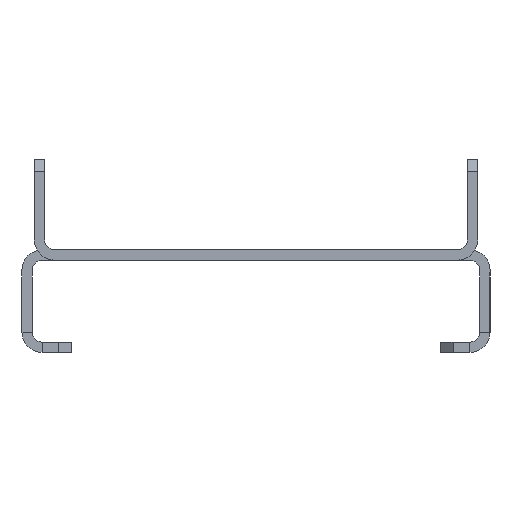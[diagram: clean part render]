
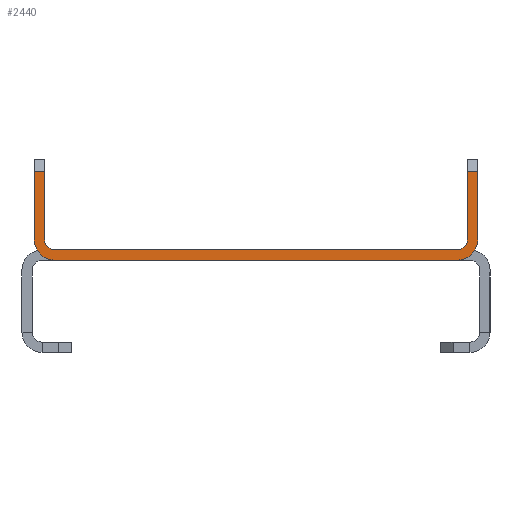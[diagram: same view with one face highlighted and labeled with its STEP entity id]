
A CAD part, front view. The second image highlights one B-rep face of the part: STEP entity #2440.
In plain terms, the highlighted planar face has unit normal (0, -1, 0).
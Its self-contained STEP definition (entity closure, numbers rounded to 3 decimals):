
#49 = VECTOR ( 'NONE', #178, 1000. ) ;
#50 = VECTOR ( 'NONE', #188, 1000. ) ;
#103 = AXIS2_PLACEMENT_3D ( 'NONE', #1231, #1233, #1229 ) ;
#106 = FACE_OUTER_BOUND ( 'NONE', #1465, .T. ) ;
#123 = VECTOR ( 'NONE', #532, 1000. ) ;
#178 = DIRECTION ( 'NONE',  ( -1., 0., 0. ) ) ;
#188 = DIRECTION ( 'NONE',  ( -1., 0., 0. ) ) ;
#197 = LINE ( 'NONE', #199, #50 ) ;
#199 = CARTESIAN_POINT ( 'NONE',  ( -54., -1056.5, 21.5 ) ) ;
#201 = CARTESIAN_POINT ( 'NONE',  ( 51.5, -1056.5, 21.5 ) ) ;
#342 = LINE ( 'NONE', #345, #2553 ) ;
#345 = CARTESIAN_POINT ( 'NONE',  ( -57., -1056.5, 2.5 ) ) ;
#349 = DIRECTION ( 'NONE',  ( 1., 0., 0. ) ) ;
#456 = CARTESIAN_POINT ( 'NONE',  ( 54., -1056.5, 4.9 ) ) ;
#460 = CARTESIAN_POINT ( 'NONE',  ( 54., -1056.5, 21.5 ) ) ;
#468 = CARTESIAN_POINT ( 'NONE',  ( 51.5, -1056.5, 4.9 ) ) ;
#512 = CARTESIAN_POINT ( 'NONE',  ( 51.5, -1056.5, 21.5 ) ) ;
#520 = LINE ( 'NONE', #522, #123 ) ;
#522 = CARTESIAN_POINT ( 'NONE',  ( -57., -1056.5, 0. ) ) ;
#532 = DIRECTION ( 'NONE',  ( 1., 0., 0. ) ) ;
#570 = LINE ( 'NONE', #590, #2781 ) ;
#582 = DIRECTION ( 'NONE',  ( 0., 0., 1. ) ) ;
#590 = CARTESIAN_POINT ( 'NONE',  ( 51.5, -1056.5, 2.5 ) ) ;
#595 = LINE ( 'NONE', #201, #49 ) ;
#957 = CARTESIAN_POINT ( 'NONE',  ( -51.5, -1056.5, 21.5 ) ) ;
#970 = CARTESIAN_POINT ( 'NONE',  ( -54., -1056.5, 21.5 ) ) ;
#974 = CARTESIAN_POINT ( 'NONE',  ( -51.5, -1056.5, 4.9 ) ) ;
#977 = CARTESIAN_POINT ( 'NONE',  ( -54., -1056.5, 4.9 ) ) ;
#1060 = CARTESIAN_POINT ( 'NONE',  ( 49.1, -1056.5, 0. ) ) ;
#1108 = DIRECTION ( 'NONE',  ( 0., 1., 0. ) ) ;
#1110 = CARTESIAN_POINT ( 'NONE',  ( -49.1, -1056.5, 4.9 ) ) ;
#1118 = DIRECTION ( 'NONE',  ( 0., 0., -1. ) ) ;
#1127 = DIRECTION ( 'NONE',  ( 0., 1., 0. ) ) ;
#1128 = CARTESIAN_POINT ( 'NONE',  ( -49.1, -1056.5, 4.9 ) ) ;
#1137 = DIRECTION ( 'NONE',  ( 0., 0., -1. ) ) ;
#1157 = LINE ( 'NONE', #1167, #2595 ) ;
#1165 = DIRECTION ( 'NONE',  ( 0., 0., 1. ) ) ;
#1167 = CARTESIAN_POINT ( 'NONE',  ( -54., -1056.5, -22.5 ) ) ;
#1188 = CARTESIAN_POINT ( 'NONE',  ( 49.1, -1056.5, 4.9 ) ) ;
#1198 = LINE ( 'NONE', #1208, #2710 ) ;
#1207 = DIRECTION ( 'NONE',  ( 0., 0., -1. ) ) ;
#1208 = CARTESIAN_POINT ( 'NONE',  ( -51.5, -1056.5, 24.5 ) ) ;
#1224 = PLANE ( 'NONE',  #103 ) ;
#1228 = DIRECTION ( 'NONE',  ( 0., 1., 0. ) ) ;
#1229 = DIRECTION ( 'NONE',  ( 0., 0., -1. ) ) ;
#1231 = CARTESIAN_POINT ( 'NONE',  ( -54., -1056.5, -22.5 ) ) ;
#1233 = DIRECTION ( 'NONE',  ( 0., -1., 0. ) ) ;
#1238 = DIRECTION ( 'NONE',  ( 0., 0., -1. ) ) ;
#1248 = CARTESIAN_POINT ( 'NONE',  ( 49.1, -1056.5, 4.9 ) ) ;
#1253 = DIRECTION ( 'NONE',  ( 0., 1., 0. ) ) ;
#1262 = DIRECTION ( 'NONE',  ( 0., 0., -1. ) ) ;
#1282 = LINE ( 'NONE', #1292, #2877 ) ;
#1290 = DIRECTION ( 'NONE',  ( 0., 0., 1. ) ) ;
#1292 = CARTESIAN_POINT ( 'NONE',  ( 54., -1056.5, -22.5 ) ) ;
#1328 = CARTESIAN_POINT ( 'NONE',  ( -49.1, -1056.5, 0. ) ) ;
#1337 = CARTESIAN_POINT ( 'NONE',  ( 49.1, -1056.5, 2.5 ) ) ;
#1356 = CARTESIAN_POINT ( 'NONE',  ( -49.1, -1056.5, 2.5 ) ) ;
#1465 = EDGE_LOOP ( 'NONE', ( #1924, #1925, #1923, #1927, #1926, #1928, #1929, #1930, #1932, #1933, #1931, #1934 ) ) ;
#1497 = VERTEX_POINT ( 'NONE', #1356 ) ;
#1516 = VERTEX_POINT ( 'NONE', #1337 ) ;
#1525 = VERTEX_POINT ( 'NONE', #1328 ) ;
#1557 = VERTEX_POINT ( 'NONE', #512 ) ;
#1559 = VERTEX_POINT ( 'NONE', #460 ) ;
#1563 = VERTEX_POINT ( 'NONE', #468 ) ;
#1564 = VERTEX_POINT ( 'NONE', #456 ) ;
#1567 = VERTEX_POINT ( 'NONE', #957 ) ;
#1573 = VERTEX_POINT ( 'NONE', #970 ) ;
#1575 = VERTEX_POINT ( 'NONE', #974 ) ;
#1577 = VERTEX_POINT ( 'NONE', #977 ) ;
#1618 = VERTEX_POINT ( 'NONE', #1060 ) ;
#1923 = ORIENTED_EDGE ( 'NONE', *, *, #2225, .F. ) ;
#1924 = ORIENTED_EDGE ( 'NONE', *, *, #2232, .F. ) ;
#1925 = ORIENTED_EDGE ( 'NONE', *, *, #2472, .T. ) ;
#1926 = ORIENTED_EDGE ( 'NONE', *, *, #2427, .T. ) ;
#1927 = ORIENTED_EDGE ( 'NONE', *, *, #2217, .F. ) ;
#1928 = ORIENTED_EDGE ( 'NONE', *, *, #2237, .F. ) ;
#1929 = ORIENTED_EDGE ( 'NONE', *, *, #2246, .T. ) ;
#1930 = ORIENTED_EDGE ( 'NONE', *, *, #2473, .T. ) ;
#1931 = ORIENTED_EDGE ( 'NONE', *, *, #2406, .F. ) ;
#1932 = ORIENTED_EDGE ( 'NONE', *, *, #2251, .F. ) ;
#1933 = ORIENTED_EDGE ( 'NONE', *, *, #2241, .T. ) ;
#1934 = ORIENTED_EDGE ( 'NONE', *, *, #2220, .T. ) ;
#2137 = CIRCLE ( 'NONE', #2747, 4.9 ) ;
#2139 = CIRCLE ( 'NONE', #2865, 2.4 ) ;
#2217 = EDGE_CURVE ( 'NONE', #1525, #1577, #2269, .T. ) ;
#2220 = EDGE_CURVE ( 'NONE', #1497, #1575, #2275, .T. ) ;
#2225 = EDGE_CURVE ( 'NONE', #1577, #1573, #1157, .T. ) ;
#2232 = EDGE_CURVE ( 'NONE', #1567, #1575, #1198, .T. ) ;
#2237 = EDGE_CURVE ( 'NONE', #1564, #1618, #2137, .T. ) ;
#2241 = EDGE_CURVE ( 'NONE', #1563, #1516, #2139, .T. ) ;
#2246 = EDGE_CURVE ( 'NONE', #1564, #1559, #1282, .T. ) ;
#2251 = EDGE_CURVE ( 'NONE', #1563, #1557, #570, .T. ) ;
#2269 = CIRCLE ( 'NONE', #2611, 4.9 ) ;
#2275 = CIRCLE ( 'NONE', #2866, 2.4 ) ;
#2406 = EDGE_CURVE ( 'NONE', #1497, #1516, #342, .T. ) ;
#2427 = EDGE_CURVE ( 'NONE', #1525, #1618, #520, .T. ) ;
#2440 = ADVANCED_FACE ( 'NONE', ( #106 ), #1224, .T. ) ;
#2472 = EDGE_CURVE ( 'NONE', #1567, #1573, #197, .T. ) ;
#2473 = EDGE_CURVE ( 'NONE', #1559, #1557, #595, .T. ) ;
#2553 = VECTOR ( 'NONE', #349, 1000. ) ;
#2595 = VECTOR ( 'NONE', #1165, 1000. ) ;
#2611 = AXIS2_PLACEMENT_3D ( 'NONE', #1110, #1108, #1118 ) ;
#2710 = VECTOR ( 'NONE', #1207, 1000. ) ;
#2747 = AXIS2_PLACEMENT_3D ( 'NONE', #1188, #1228, #1238 ) ;
#2781 = VECTOR ( 'NONE', #582, 1000. ) ;
#2865 = AXIS2_PLACEMENT_3D ( 'NONE', #1248, #1253, #1262 ) ;
#2866 = AXIS2_PLACEMENT_3D ( 'NONE', #1128, #1127, #1137 ) ;
#2877 = VECTOR ( 'NONE', #1290, 1000. ) ;
